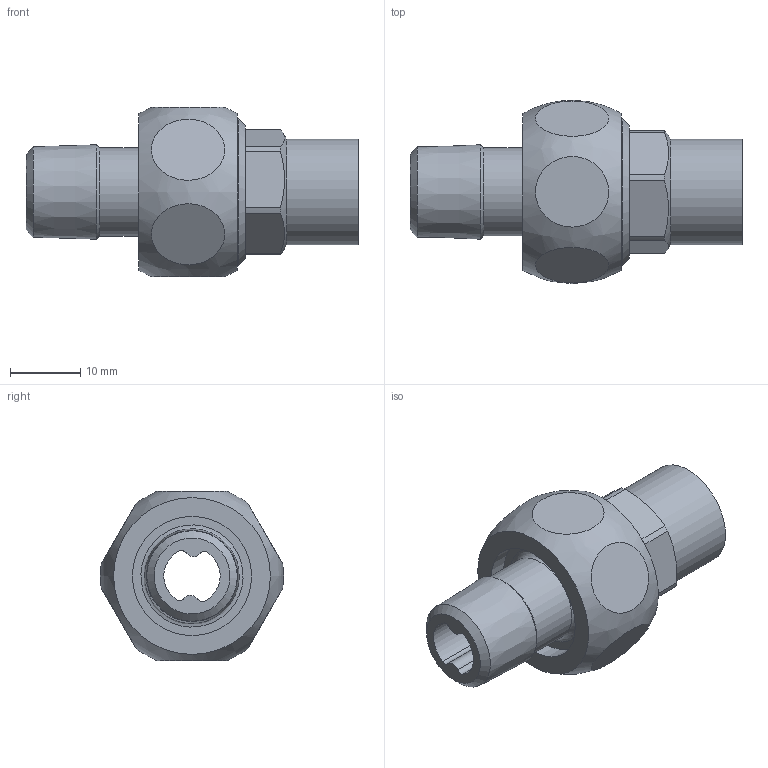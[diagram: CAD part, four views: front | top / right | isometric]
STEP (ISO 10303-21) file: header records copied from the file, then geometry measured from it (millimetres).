
FILE_DESCRIPTION((''),'2;1');
FILE_NAME('\\lg50001\SANHA_Legnica\Engineering\Public\RYSUNKI\SANHA POLSKA\4341g\step\14341g_12-14(1).stp','2012-07-27T13:45:39',('pajchrowski'),(''),'Autodesk Inventor 2009','Autodesk Inventor 2009','');
FILE_SCHEMA(('AUTOMOTIVE_DESIGN { 1 0 10303 214 1 1 1 1 }'));
Length unit declared in the file: millimetre
Products named in the file (4): 14341g_12-14(1); 14374_12(2); 14380_12-12-A(1); 14382_14-12(1)
Assembly tree (3 placements, depth 2):
  14341g_12-14(1)
    14374_12(2)
    14380_12-12-A(1)
    14382_14-12(1)
Bounding box: 47.1 x 26 x 24 mm (x, y, z)
Volume: 8614.7 mm3; surface area: 6887.2 mm2
Topology: 3 solids, 3 shells, 58 faces, 118 edges, 76 vertices
Faces by surface type: plane 24, cylinder 23, cone 8, bspline 3
Full cylindrical faces by diameter (mm): 11 x1, 12 x1, 12.5 x1, 15 x2, 16.9 x1, 18.3 x1, 18.63 x1, 20.955 x1
Entity records: 2517 total; most frequent: CARTESIAN_POINT 1243, DIRECTION 266, ORIENTED_EDGE 192, AXIS2_PLACEMENT_3D 120, EDGE_CURVE 96, EDGE_LOOP 94, VERTEX_POINT 74, CIRCLE 58
